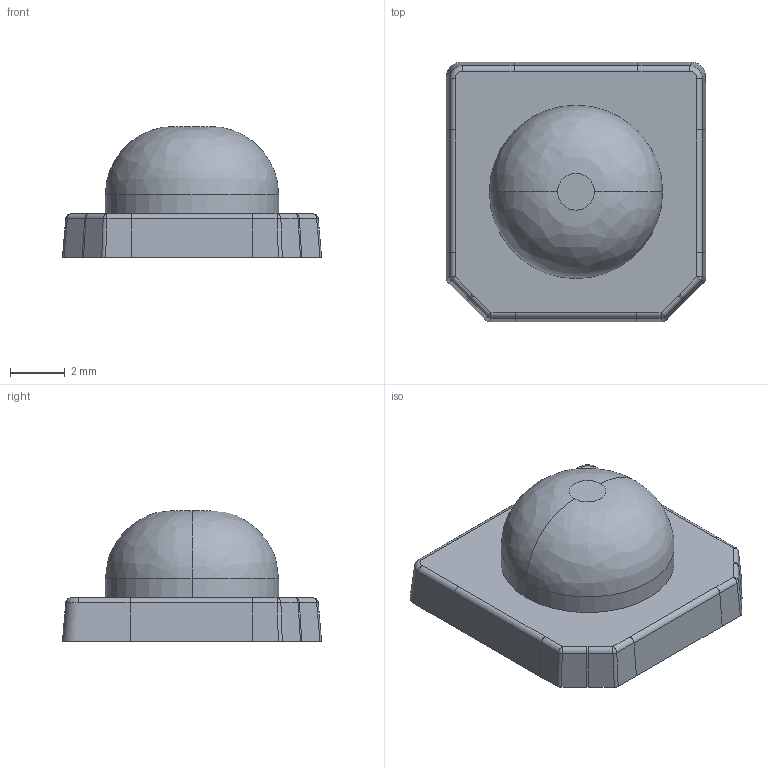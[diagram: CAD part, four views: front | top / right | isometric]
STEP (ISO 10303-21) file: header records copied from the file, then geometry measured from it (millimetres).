
FILE_DESCRIPTION(/* description */ (''),/* implementation_level */ '2;1');
FILE_NAME(/* name */ '240701_AL-30M-033K3(RefarenceModel)',/* time_stamp */ '2024-07-01T12:12:05+09:00',/* author */ (''),/* organization */ (''),/* preprocessor_version */ 'ST-DEVELOPER v19.2',/* originating_system */ 'Rhino 8.4',/* authorisation */ '');
FILE_SCHEMA (('AP242_MANAGED_MODEL_BASED_3D_ENGINEERING_MIM_LF { 1 0 10303 442 3 1 4 }'));
Length unit declared in the file: millimetre
Products named in the file (1): Document
Bounding box: 9.5 x 9.5 x 4.8 mm (x, y, z)
Volume: 151.5 mm3; surface area: 294.3 mm2
Topology: 1 solids, 1 shells, 77 faces, 175 edges, 103 vertices
Faces by surface type: cylinder 32, plane 27, bspline 18
Entity records: 2810 total; most frequent: CARTESIAN_POINT 1490, ORIENTED_EDGE 346, EDGE_CURVE 173, DIRECTION 153, AXIS2_PLACEMENT_3D 106, VERTEX_POINT 100, EDGE_LOOP 79, ADVANCED_FACE 77
